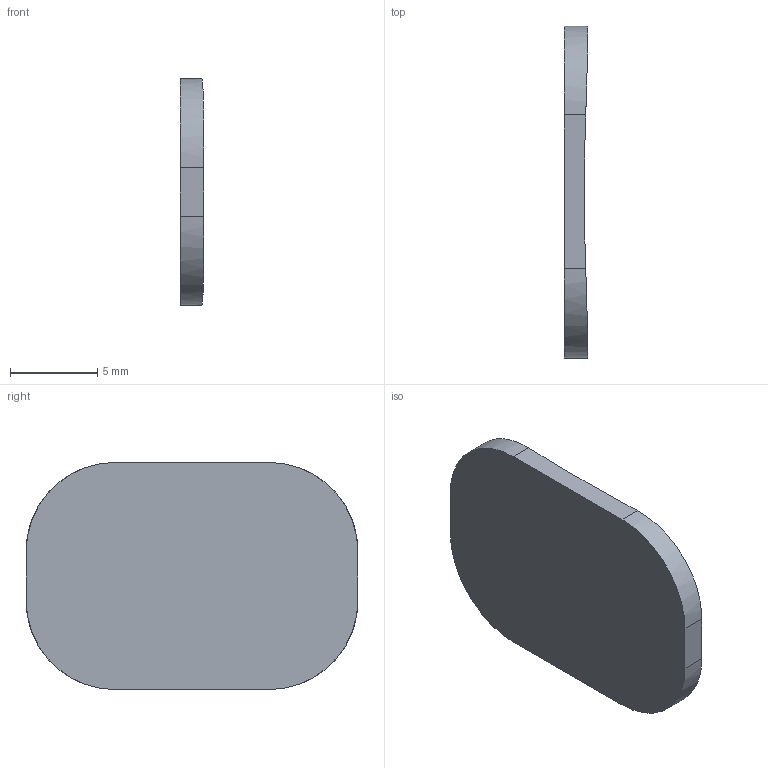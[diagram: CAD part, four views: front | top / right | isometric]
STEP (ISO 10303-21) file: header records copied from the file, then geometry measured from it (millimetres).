
FILE_DESCRIPTION(('Open CASCADE Model'),'2;1');
FILE_NAME('Open CASCADE Shape Model','2026-09-09T12:58:10',('Author'),( 'Open CASCADE'),'Open CASCADE STEP processor 7.9','Open CASCADE 7.9' ,'Unknown');
FILE_SCHEMA(('AUTOMOTIVE_DESIGN { 1 0 10303 214 1 1 1 1 }'));
Length unit declared in the file: millimetre
Products named in the file (1): Open CASCADE STEP translator 7.9 19
Bounding box: 1.36 x 19 x 13 mm (x, y, z)
Volume: 257.5 mm3; surface area: 521.9 mm2
Topology: 1 solids, 1 shells, 23 faces, 63 edges, 42 vertices
Faces by surface type: plane 18, cylinder 4, sphere 1
Entity records: 2223 total; most frequent: CARTESIAN_POINT 969, DIRECTION 230, ORIENTED_EDGE 126, PCURVE 126, DEFINITIONAL_REPRESENTATION 126, LINE 114, VECTOR 114, EDGE_CURVE 63
